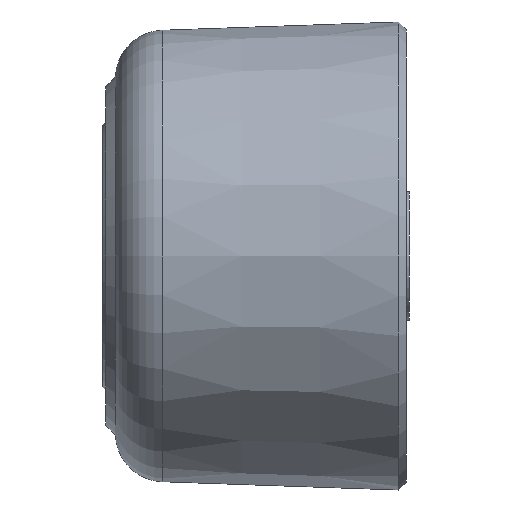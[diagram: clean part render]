
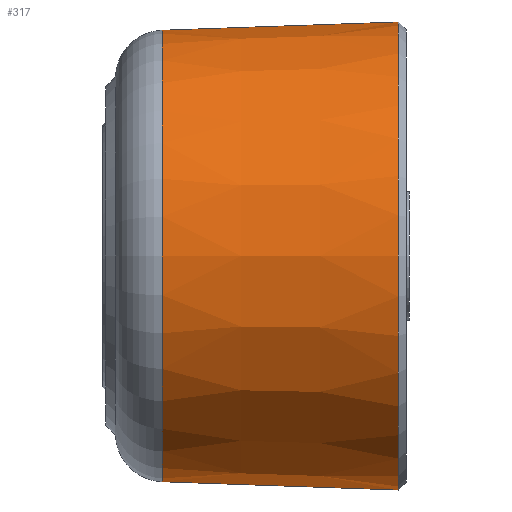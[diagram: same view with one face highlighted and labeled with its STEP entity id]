
A CAD part, left-side view. The second image highlights one B-rep face of the part: STEP entity #317.
In plain terms, the highlighted conical face has half-angle 2 degrees and reference radius 13.871 mm.
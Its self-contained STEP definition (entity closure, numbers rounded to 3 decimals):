
#317=ADVANCED_FACE('NONE',(#741),#742,.T.);
#741=FACE_OUTER_BOUND('',#1278,.T.);
#742=CONICAL_SURFACE('',#1279,13.871,0.035);
#1278=EDGE_LOOP('',(#2506,#2507,#2508,#2509));
#1279=AXIS2_PLACEMENT_3D('',#2510,#2511,#2512);
#2506=ORIENTED_EDGE('',*,*,#3640,.F.);
#2507=ORIENTED_EDGE('',*,*,#3747,.T.);
#2508=ORIENTED_EDGE('',*,*,#3641,.T.);
#2509=ORIENTED_EDGE('',*,*,#3748,.T.);
#2510=CARTESIAN_POINT('',(0.0,18.0,0.0));
#2511=DIRECTION('',(-0.0,-1.0,-0.0));
#2512=DIRECTION('',(0.0,0.0,-1.0));
#3640=EDGE_CURVE('NONE',#4287,#4282,#4344,.T.);
#3641=EDGE_CURVE('NONE',#4286,#4280,#4345,.T.);
#3747=EDGE_CURVE('NONE',#4287,#4286,#4496,.T.);
#3748=EDGE_CURVE('NONE',#4280,#4282,#4497,.T.);
#4280=VERTEX_POINT('NONE',#5176);
#4282=VERTEX_POINT('NONE',#5179);
#4286=VERTEX_POINT('NONE',#5184);
#4287=VERTEX_POINT('NONE',#5185);
#4344=LINE('',#5251,#5252);
#4345=LINE('',#5253,#5254);
#4496=CIRCLE('',#5511,13.972);
#4497=CIRCLE('',#5512,14.483);
#5176=CARTESIAN_POINT('',(0.0,0.483,-14.483));
#5179=CARTESIAN_POINT('',(0.,0.483,14.483));
#5184=CARTESIAN_POINT('',(0.0,15.107,-13.972));
#5185=CARTESIAN_POINT('',(0.,15.107,13.972));
#5251=CARTESIAN_POINT('',(0.,18.0,13.871));
#5252=VECTOR('',#6524,1000.0);
#5253=CARTESIAN_POINT('',(0.0,18.0,-13.871));
#5254=VECTOR('',#6525,1000.0);
#5511=AXIS2_PLACEMENT_3D('',#6682,#6683,#6684);
#5512=AXIS2_PLACEMENT_3D('',#6685,#6686,#6687);
#6524=DIRECTION('',(0.,-0.999,0.035));
#6525=DIRECTION('',(0.0,-0.999,-0.035));
#6682=CARTESIAN_POINT('',(0.0,15.107,0.0));
#6683=DIRECTION('',(0.0,-1.0,0.0));
#6684=DIRECTION('',(0.0,0.0,-1.0));
#6685=CARTESIAN_POINT('',(0.0,0.483,0.0));
#6686=DIRECTION('',(-0.0,1.0,0.0));
#6687=DIRECTION('',(0.0,0.0,1.0));
